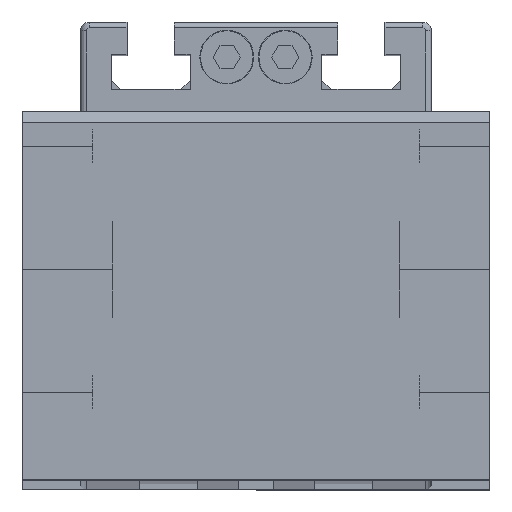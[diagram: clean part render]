
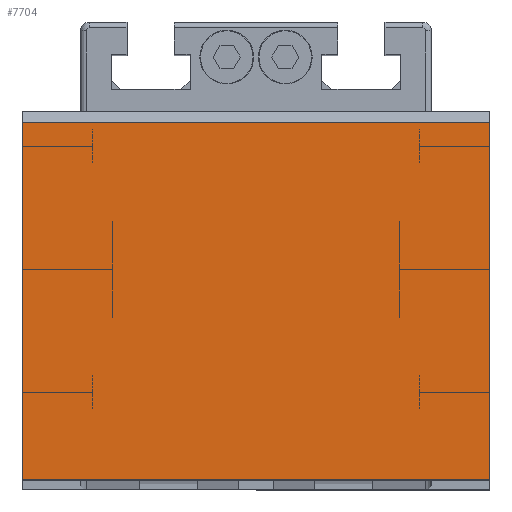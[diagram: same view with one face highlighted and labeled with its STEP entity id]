
A CAD part, top view. The second image highlights one B-rep face of the part: STEP entity #7704.
In plain terms, the highlighted planar face has unit normal (0, 0, 1).
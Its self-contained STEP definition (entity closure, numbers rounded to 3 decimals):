
#252 = DIRECTION ( 'NONE',  ( 0., 0., -1. ) ) ;
#292 = VECTOR ( 'NONE', #10053, 1000. ) ;
#316 = CARTESIAN_POINT ( 'NONE',  ( 80., 61., 29.5 ) ) ;
#1014 = LINE ( 'NONE', #10544, #9945 ) ;
#1287 = LINE ( 'NONE', #8521, #292 ) ;
#2636 = VERTEX_POINT ( 'NONE', #3740 ) ;
#2679 = EDGE_CURVE ( 'NONE', #9893, #2636, #1287, .T. ) ;
#2876 = VECTOR ( 'NONE', #8884, 1000. ) ;
#2971 = EDGE_CURVE ( 'NONE', #6014, #9893, #1014, .T. ) ;
#2989 = EDGE_CURVE ( 'NONE', #6014, #7444, #9714, .T. ) ;
#3006 = EDGE_CURVE ( 'NONE', #7444, #2636, #3168, .T. ) ;
#3168 = LINE ( 'NONE', #6916, #2876 ) ;
#3740 = CARTESIAN_POINT ( 'NONE',  ( 0., 0., 29.5 ) ) ;
#3790 = PLANE ( 'NONE',  #5818 ) ;
#4037 = CARTESIAN_POINT ( 'NONE',  ( 80., 0., 29.5 ) ) ;
#4089 = CARTESIAN_POINT ( 'NONE',  ( 0., 61., 29.5 ) ) ;
#4143 = FACE_OUTER_BOUND ( 'NONE', #5497, .T. ) ;
#5497 = EDGE_LOOP ( 'NONE', ( #10270, #10408, #10506, #10840 ) ) ;
#5818 = AXIS2_PLACEMENT_3D ( 'NONE', #10796, #252, #7862 ) ;
#6014 = VERTEX_POINT ( 'NONE', #316 ) ;
#6916 = CARTESIAN_POINT ( 'NONE',  ( 0., 31.5, 29.5 ) ) ;
#7278 = DIRECTION ( 'NONE',  ( -1., 0., 0. ) ) ;
#7444 = VERTEX_POINT ( 'NONE', #4089 ) ;
#7577 = VECTOR ( 'NONE', #7278, 1000. ) ;
#7704 = ADVANCED_FACE ( 'NONE', ( #4143 ), #3790, .F. ) ;
#7862 = DIRECTION ( 'NONE',  ( 0., 1., 0. ) ) ;
#8521 = CARTESIAN_POINT ( 'NONE',  ( 80., 0., 29.5 ) ) ;
#8884 = DIRECTION ( 'NONE',  ( 0., -1., 0. ) ) ;
#9714 = LINE ( 'NONE', #10189, #7577 ) ;
#9893 = VERTEX_POINT ( 'NONE', #4037 ) ;
#9945 = VECTOR ( 'NONE', #10600, 1000. ) ;
#10053 = DIRECTION ( 'NONE',  ( -1., 0., 0. ) ) ;
#10189 = CARTESIAN_POINT ( 'NONE',  ( 80., 61., 29.5 ) ) ;
#10270 = ORIENTED_EDGE ( 'NONE', *, *, #2971, .F. ) ;
#10408 = ORIENTED_EDGE ( 'NONE', *, *, #2989, .T. ) ;
#10506 = ORIENTED_EDGE ( 'NONE', *, *, #3006, .T. ) ;
#10544 = CARTESIAN_POINT ( 'NONE',  ( 80., 31.5, 29.5 ) ) ;
#10600 = DIRECTION ( 'NONE',  ( 0., -1., 0. ) ) ;
#10796 = CARTESIAN_POINT ( 'NONE',  ( 80., 31.5, 29.5 ) ) ;
#10840 = ORIENTED_EDGE ( 'NONE', *, *, #2679, .F. ) ;
